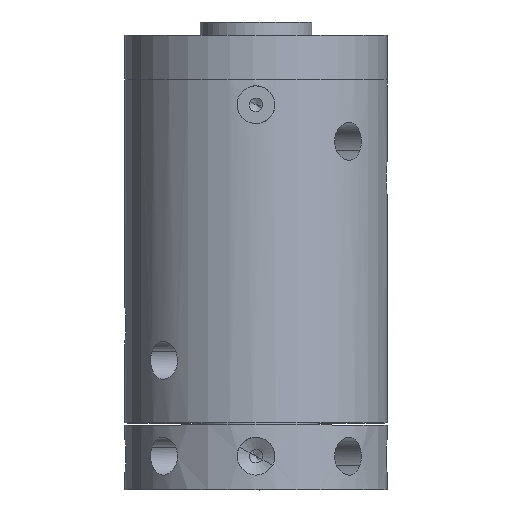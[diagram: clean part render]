
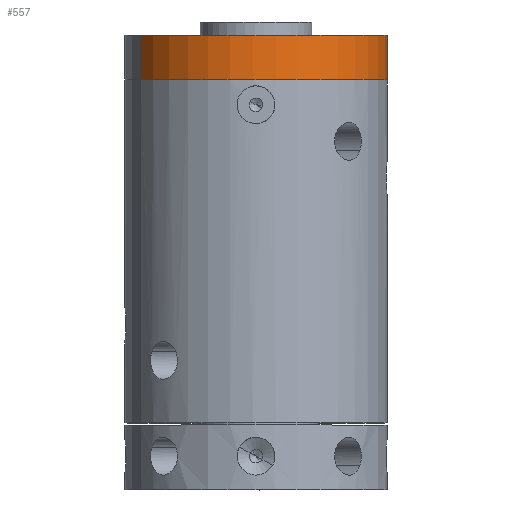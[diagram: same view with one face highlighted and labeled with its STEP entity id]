
A CAD part, top view. The second image highlights one B-rep face of the part: STEP entity #557.
In plain terms, the highlighted cylindrical face has radius 29.5 mm (diameter 59 mm), a partial arc.
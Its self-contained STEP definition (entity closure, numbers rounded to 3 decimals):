
#501=CARTESIAN_POINT('Axis2P3D Location',(0.,58.5,0.)) ;
#510=CARTESIAN_POINT('Vertex',(25.889,102.,-14.143)) ;
#512=CARTESIAN_POINT('Vertex',(-25.889,102.,14.143)) ;
#515=CARTESIAN_POINT('Line Origine',(25.889,58.5,-14.143)) ;
#519=CARTESIAN_POINT('Vertex',(25.889,92.,-14.143)) ;
#526=CARTESIAN_POINT('Vertex',(-25.889,92.,14.143)) ;
#529=CARTESIAN_POINT('Line Origine',(-25.889,58.5,14.143)) ;
#541=CARTESIAN_POINT('Axis2P3D Location',(0.,102.,0.)) ;
#546=CARTESIAN_POINT('Axis2P3D Location',(0.,92.,0.)) ;
#502=DIRECTION('Axis2P3D Direction',(0.,1.,0.)) ;
#503=DIRECTION('Axis2P3D XDirection',(-0.878,0.,0.479)) ;
#516=DIRECTION('Vector Direction',(0.,1.,0.)) ;
#530=DIRECTION('Vector Direction',(0.,1.,0.)) ;
#542=DIRECTION('Axis2P3D Direction',(0.,1.,0.)) ;
#547=DIRECTION('Axis2P3D Direction',(0.,1.,0.)) ;
#504=AXIS2_PLACEMENT_3D('Cylinder Axis2P3D',#501,#502,#503) ;
#543=AXIS2_PLACEMENT_3D('Circle Axis2P3D',#541,#542,$) ;
#548=AXIS2_PLACEMENT_3D('Circle Axis2P3D',#546,#547,$) ;
#552=ORIENTED_EDGE('',*,*,#545,.F.) ;
#553=ORIENTED_EDGE('',*,*,#533,.T.) ;
#554=ORIENTED_EDGE('',*,*,#550,.T.) ;
#555=ORIENTED_EDGE('',*,*,#521,.F.) ;
#517=VECTOR('Line Direction',#516,1.) ;
#531=VECTOR('Line Direction',#530,1.) ;
#557=ADVANCED_FACE('BODY',(#556),#505,.T.) ;
#544=CIRCLE('generated circle',#543,29.5) ;
#549=CIRCLE('generated circle',#548,29.5) ;
#505=CYLINDRICAL_SURFACE('generated cylinder',#504,29.5) ;
#521=EDGE_CURVE('',#511,#520,#518,.F.) ;
#533=EDGE_CURVE('',#513,#527,#532,.F.) ;
#545=EDGE_CURVE('',#513,#511,#544,.T.) ;
#550=EDGE_CURVE('',#527,#520,#549,.T.) ;
#551=EDGE_LOOP('',(#552,#553,#554,#555)) ;
#556=FACE_OUTER_BOUND('',#551,.T.) ;
#518=LINE('Line',#515,#517) ;
#532=LINE('Line',#529,#531) ;
#511=VERTEX_POINT('',#510) ;
#513=VERTEX_POINT('',#512) ;
#520=VERTEX_POINT('',#519) ;
#527=VERTEX_POINT('',#526) ;
